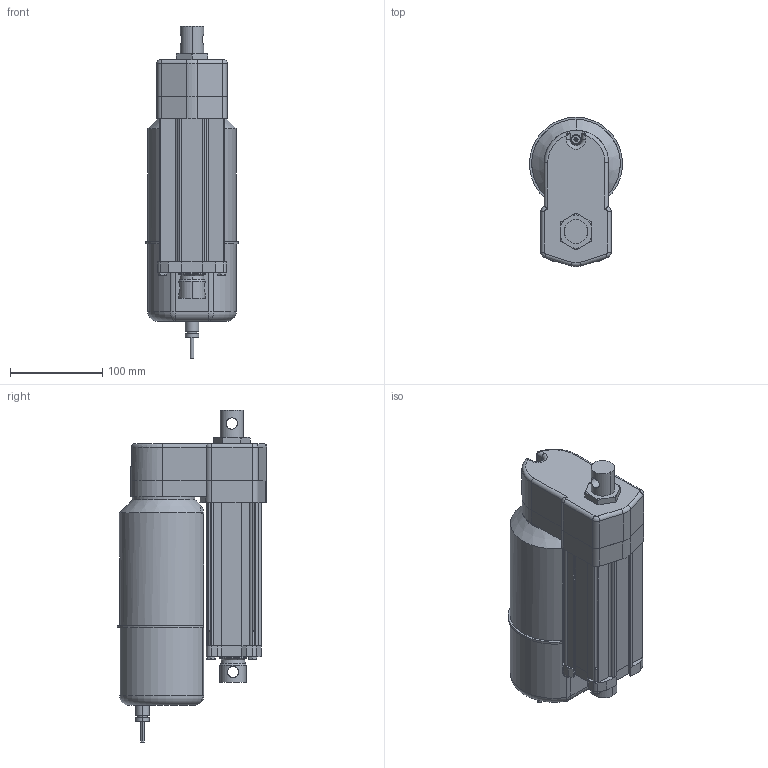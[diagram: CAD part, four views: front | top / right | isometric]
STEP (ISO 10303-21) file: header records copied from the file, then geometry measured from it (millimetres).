
FILE_DESCRIPTION (( 'STEP AP214' ), '1' );
FILE_NAME ('AA22-05B65M-05M0N-tollo.step', '2020-04-14T18:42:17', ( '' ), ( '' ), 'SwSTEP 2.0', 'SolidWorks 2010', '' );
FILE_SCHEMA (( 'AUTOMOTIVE_DESIGN' ));
Length unit declared in the file: millimetre
Products named in the file (8): Electrak-LA24-Motor-AA22-05B65M-05M0N-tollo_Electrak-LA24-Motor-AA22-05B65M-05M0N-tollo; Electrak-LA24-Rear-AA22-05B65M-05M0N-tollo_Electrak-LA24-Rear-AA22-05B65M-05M0N-tollo; Electrak-LA24-Tube-AA22-05B65M-05M0N-tollo_Electrak-LA24-Tube-AA22-05B65M-05M0N-tollo; Electrak-LA24-Rod-AA22-05B65M-05M0N-tollo_Electrak-LA24-Rod-AA22-05B65M-05M0N-tollo; Electrak-LA24-Plate-AA22-05B65M-05M0N-tollo_Electrak-LA24-Plate-AA22-05B65M-05M0N-tollo; Screw-MFX-H-M5_Screw-MFX-H-M5x24H; Screw-M6S-M5-AA22-05B65M-05M0N-tollo_Screw-M6S-M5-AA22-05B65M-05M0N-tollo; AA22-05B65M-05M0N-tollo
Assembly tree (10 placements, depth 2):
  AA22-05B65M-05M0N-tollo
    Screw-M6S-M5-AA22-05B65M-05M0N-tollo_Screw-M6S-M5-AA22-05B65M-05M0N-tollo  x4
    Electrak-LA24-Plate-AA22-05B65M-05M0N-tollo_Electrak-LA24-Plate-AA22-05B65M-05M0N-tollo
    Electrak-LA24-Rear-AA22-05B65M-05M0N-tollo_Electrak-LA24-Rear-AA22-05B65M-05M0N-tollo
    Electrak-LA24-Tube-AA22-05B65M-05M0N-tollo_Electrak-LA24-Tube-AA22-05B65M-05M0N-tollo
    Electrak-LA24-Motor-AA22-05B65M-05M0N-tollo_Electrak-LA24-Motor-AA22-05B65M-05M0N-tollo
    Electrak-LA24-Rod-AA22-05B65M-05M0N-tollo_Electrak-LA24-Rod-AA22-05B65M-05M0N-tollo
    Screw-MFX-H-M5_Screw-MFX-H-M5x24H
Bounding box: 100.99 x 162.5 x 360.3 mm (x, y, z)
Volume: 2432680.9 mm3; surface area: 255957.7 mm2
Topology: 10 solids, 10 shells, 429 faces, 1071 edges, 681 vertices
Faces by surface type: cylinder 176, plane 174, cone 58, torus 16, bspline 3, sphere 2
Entity records: 11539 total; most frequent: CARTESIAN_POINT 2722, DIRECTION 1809, ORIENTED_EDGE 1702, EDGE_CURVE 851, AXIS2_PLACEMENT_3D 661, VERTEX_POINT 546, VECTOR 487, LINE 487
